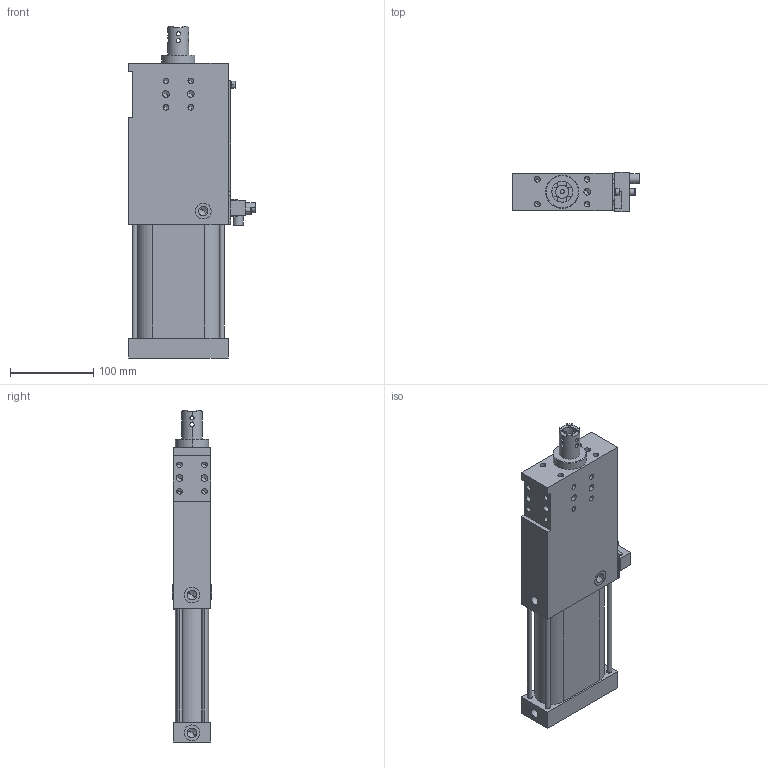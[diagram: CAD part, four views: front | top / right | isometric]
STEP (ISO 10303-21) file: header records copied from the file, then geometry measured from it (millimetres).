
FILE_DESCRIPTION(('CATIA V5 STEP Exchange'),'2;1');
FILE_NAME('G:\Konstruktion\Modelle\UPLOAD\SZK_63_2_BR3_T12_TUENKERS.stp','2016-10-17T10:34:07+00:00',('none'),('none'),'CATIA Version 5 Release 19 SP 9 (IN-10)','CATIA V5 STEP AP214','none');
FILE_SCHEMA(('AUTOMOTIVE_DESIGN { 1 0 10303 214 1 1 1 1 }'));
Length unit declared in the file: millimetre
Products named in the file (1): SZK_63_2_BR3_T12_TUENKERS
Bounding box: 153 x 47 x 400 mm (x, y, z)
Volume: 1730533.5 mm3; surface area: 149424.2 mm2
Topology: 1 solids, 1 shells, 243 faces, 626 edges, 370 vertices
Faces by surface type: cylinder 104, plane 79, cone 56, torus 4
Entity records: 7293 total; most frequent: CARTESIAN_POINT 1468, ORIENTED_EDGE 1148, DIRECTION 818, EDGE_CURVE 574, VERTEX_POINT 370, AXIS2_PLACEMENT_3D 354, VECTOR 316, LINE 316
